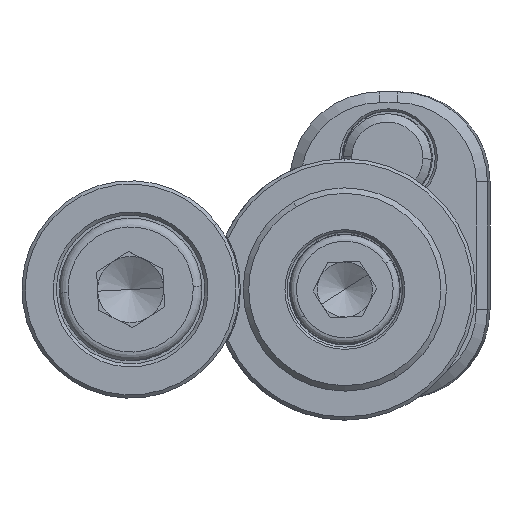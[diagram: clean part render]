
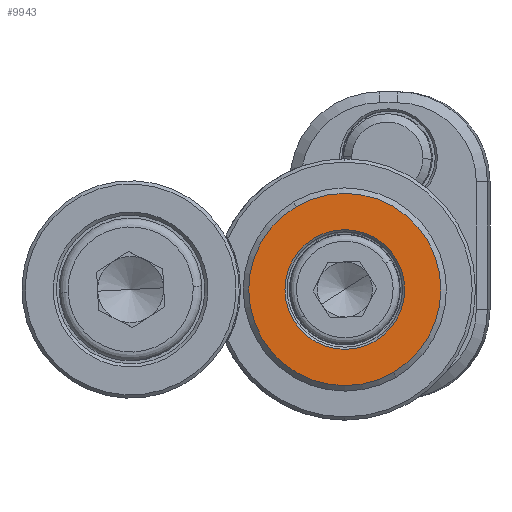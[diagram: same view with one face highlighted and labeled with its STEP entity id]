
A CAD part, front view. The second image highlights one B-rep face of the part: STEP entity #9943.
In plain terms, the highlighted planar face has unit normal (0, -1, 0).
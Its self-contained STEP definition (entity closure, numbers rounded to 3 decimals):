
#280 = EDGE_CURVE ( 'NONE', #13034, #12305, #3425, .T. ) ;
#672 = CARTESIAN_POINT ( 'NONE',  ( -4.42, -4., 7.552 ) ) ;
#907 = EDGE_CURVE ( 'NONE', #13434, #8855, #7937, .T. ) ;
#979 = CIRCLE ( 'NONE', #1696, 8.75 ) ;
#1129 = DIRECTION ( 'NONE',  ( 0., -1., 0. ) ) ;
#1387 = CARTESIAN_POINT ( 'NONE',  ( -2.753, -4., 4.704 ) ) ;
#1696 = AXIS2_PLACEMENT_3D ( 'NONE', #8862, #1129, #7764 ) ;
#1854 = DIRECTION ( 'NONE',  ( -0.505, 0., 0.863 ) ) ;
#2364 = DIRECTION ( 'NONE',  ( -0.505, 0., 0.863 ) ) ;
#2451 = AXIS2_PLACEMENT_3D ( 'NONE', #3436, #7825, #2364 ) ;
#3321 = CARTESIAN_POINT ( 'NONE',  ( 4.42, -4., -7.552 ) ) ;
#3425 = CIRCLE ( 'NONE', #4364, 8.75 ) ;
#3436 = CARTESIAN_POINT ( 'NONE',  ( 0., -4., 0. ) ) ;
#3589 = ORIENTED_EDGE ( 'NONE', *, *, #9509, .T. ) ;
#3706 = EDGE_LOOP ( 'NONE', ( #3589, #12970 ) ) ;
#4364 = AXIS2_PLACEMENT_3D ( 'NONE', #11904, #7308, #1854 ) ;
#4378 = AXIS2_PLACEMENT_3D ( 'NONE', #6713, #9998, #13329 ) ;
#4545 = EDGE_CURVE ( 'NONE', #8855, #13434, #7258, .T. ) ;
#5568 = FACE_OUTER_BOUND ( 'NONE', #3706, .T. ) ;
#5688 = ORIENTED_EDGE ( 'NONE', *, *, #907, .T. ) ;
#6713 = CARTESIAN_POINT ( 'NONE',  ( -4.531, -4., -2.652 ) ) ;
#7258 = CIRCLE ( 'NONE', #2451, 5.45 ) ;
#7308 = DIRECTION ( 'NONE',  ( 0., -1., 0. ) ) ;
#7764 = DIRECTION ( 'NONE',  ( -0.505, 0., 0.863 ) ) ;
#7825 = DIRECTION ( 'NONE',  ( 0., 1., 0. ) ) ;
#7937 = CIRCLE ( 'NONE', #13748, 5.45 ) ;
#8855 = VERTEX_POINT ( 'NONE', #1387 ) ;
#8862 = CARTESIAN_POINT ( 'NONE',  ( 0., -4., 0. ) ) ;
#9052 = PLANE ( 'NONE',  #4378 ) ;
#9509 = EDGE_CURVE ( 'NONE', #12305, #13034, #979, .T. ) ;
#9785 = DIRECTION ( 'NONE',  ( 0., 1., 0. ) ) ;
#9943 = ADVANCED_FACE ( 'NONE', ( #11449, #5568 ), #9052, .F. ) ;
#9998 = DIRECTION ( 'NONE',  ( 0., 1., 0. ) ) ;
#10831 = CARTESIAN_POINT ( 'NONE',  ( 2.753, -4., -4.704 ) ) ;
#10881 = CARTESIAN_POINT ( 'NONE',  ( 0., -4., 0. ) ) ;
#11449 = FACE_BOUND ( 'NONE', #12482, .T. ) ;
#11904 = CARTESIAN_POINT ( 'NONE',  ( 0., -4., 0. ) ) ;
#12305 = VERTEX_POINT ( 'NONE', #672 ) ;
#12482 = EDGE_LOOP ( 'NONE', ( #5688, #12826 ) ) ;
#12826 = ORIENTED_EDGE ( 'NONE', *, *, #4545, .T. ) ;
#12970 = ORIENTED_EDGE ( 'NONE', *, *, #280, .T. ) ;
#13034 = VERTEX_POINT ( 'NONE', #3321 ) ;
#13329 = DIRECTION ( 'NONE',  ( -0.505, 0., 0.863 ) ) ;
#13434 = VERTEX_POINT ( 'NONE', #10831 ) ;
#13748 = AXIS2_PLACEMENT_3D ( 'NONE', #10881, #9785, #14216 ) ;
#14216 = DIRECTION ( 'NONE',  ( -0.505, 0., 0.863 ) ) ;
